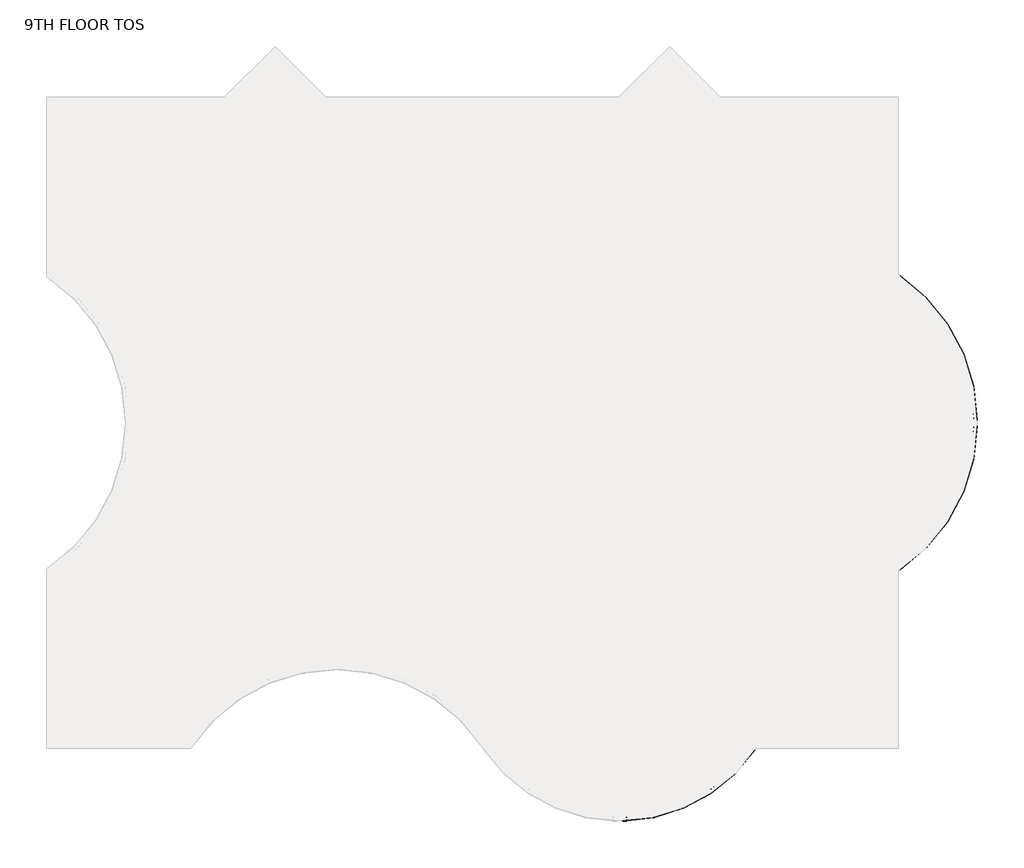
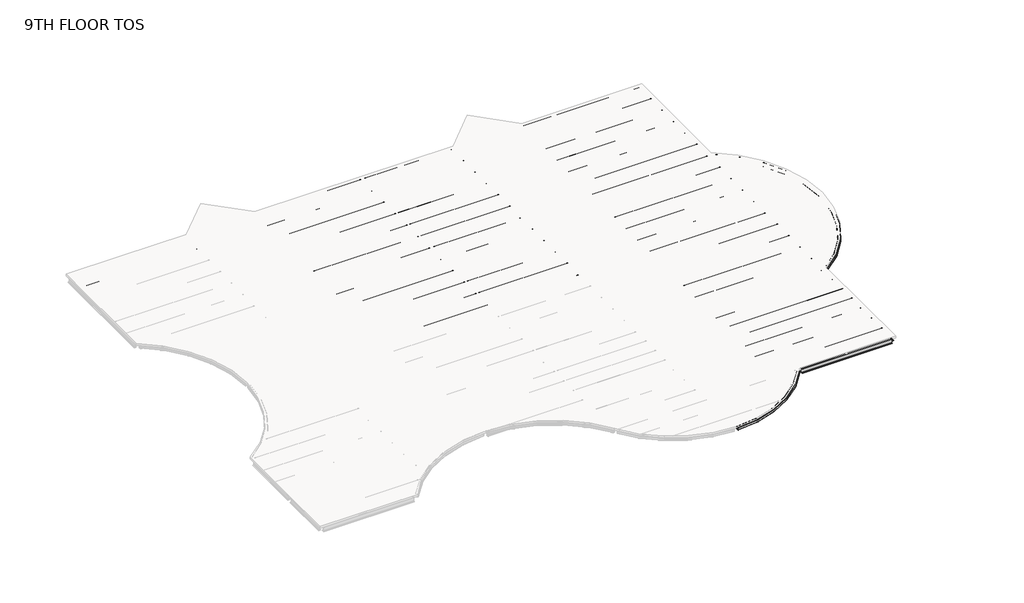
# One storey, part 2 of 2: 110 beams.
"""IFC4 building model written with IfcOpenShell, lengths in millimetres."""

from ifc_helpers import new_model, si_unit, origin, place, context, project, spatial, transform, mapped, element, save
from components import m_hss_square_hss203_2x203_2x9_5_28e91a4e, m_hss_square_hss203_2x203_2x9_5_f31329aa, m_hss_square_hss203_2x203_2x9_5_63507dff, ub_universal_beams_ub254x102x28_7812688d, ub_universal_beams_ub254x102x28_4a38c177, ub_universal_beams_ub305x165x40_c4d0385b, ub_universal_beams_ub305x165x40_19965e16, ub_universal_beams_ub305x165x40_d3abc31d, ub_universal_beams_ub305x165x40_0c73730f, ub_universal_beams_ub305x165x40_2a963f0c, ub_universal_beams_ub305x165x40_9ce7f2ee, ub_universal_beams_ub305x165x40_d184adfd, ub_universal_beams_ub305x165x40_bc7dc938, ub_universal_beams_ub305x165x40_b4233d25, ub_universal_beams_ub356x171x51_c708c058, ub_universal_beams_ub356x171x51_ef72dcdd, ub_universal_beams_ub356x171x51_10b3c54f, ub_universal_beams_ub356x171x51_4c9fd821, ub_universal_beams_ub356x171x51_d1a87c3c, ub_universal_beams_ub356x171x51_fa75724b, ub_universal_beams_ub356x171x51_68db896e, ub_universal_beams_ub356x171x51_c634c4a6, ub_universal_beams_ub356x171x51_995f1560, ub_universal_beams_ub356x171x51_dfc36663, ub_universal_beams_ub356x171x51_11d6b780, ub_universal_beams_ub356x171x51_76b2d20b, ub_universal_beams_ub356x171x51_145ecd4b, ub_universal_beams_ub356x171x51_c7dff8d2, ub_universal_beams_ub356x171x51_8a345439, ub_universal_beams_ub356x171x51_6da510e9, ub_universal_beams_ub356x171x51_e97f8d2e, ub_universal_beams_ub356x171x51_a38b99de, ub_universal_beams_ub356x171x51_d8f4cdde, ub_universal_beams_ub356x171x51_475301e6, ub_universal_beams_ub356x171x51_c03c70fb, ub_universal_beams_ub356x171x51_741bae58

model = new_model("IFC4")

# Units and contexts
model_context = context("Model", 3, world=origin())
ifc_project = project(units=[si_unit("LENGTHUNIT", "METRE", prefix="MILLI")], contexts=[model_context])

# Site, building, storey
site = spatial("IfcSite", under=ifc_project)
building = spatial("IfcBuilding", under=site)
storey = spatial("IfcBuildingStorey", under=building, Name="9TH FLOOR TOS", Elevation=40995.6)

# Beams
placement = place(None, origin())
m_hss_square_hss203_2x203_2x9_5_shape = m_hss_square_hss203_2x203_2x9_5_28e91a4e(model_context)
element("IfcBeam", 1, ObjectType="M_HSS Square : HSS203.2X203.2X9.5", at=placement, inside=storey, context=model_context, shape_type="MappedRepresentation", body=[
    mapped(m_hss_square_hss203_2x203_2x9_5_shape, transform((44027.575, 24539.575, 40894.1), x_axis=(0.8332810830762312, -0.5528495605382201, 0.0), y_axis=(0.5528495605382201, 0.8332810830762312, 0.0), z_axis=(0.0, 0.0, 1.0))),
])
m_hss_square_hss203_2x203_2x9_5_2_shape = m_hss_square_hss203_2x203_2x9_5_f31329aa(model_context)
element("IfcBeam", 2, ObjectType="M_HSS Square : HSS203.2X203.2X9.5", at=placement, inside=storey, context=model_context, shape_type="MappedRepresentation", body=[
    mapped(m_hss_square_hss203_2x203_2x9_5_2_shape, transform((44027.575, 9299.575, 40894.1), x_axis=(0.8332810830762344, 0.5528495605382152, 0.0), y_axis=(-0.5528495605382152, 0.8332810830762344, 0.0), z_axis=(0.0, 0.0, 1.0))),
])
m_hss_square_hss203_2x203_2x9_5_3_shape = m_hss_square_hss203_2x203_2x9_5_63507dff(model_context)
element("IfcBeam", 3, ObjectType="M_HSS Square : HSS203.2X203.2X9.5", at=placement, inside=storey, context=model_context, shape_type="MappedRepresentation", body=[
    mapped(m_hss_square_hss203_2x203_2x9_5_3_shape, transform((36716.575, 155.575, 40894.1), x_axis=(-0.5530174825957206, -0.8331696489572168, 0.0), y_axis=(0.8331696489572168, -0.5530174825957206, 0.0), z_axis=(0.0, 0.0, 1.0))),
])
ub_universal_beams_ub254x102x28_shape = ub_universal_beams_ub254x102x28_7812688d(model_context)
element("IfcBeam", 4, ObjectType="UB-Universal Beams : UB254x102x28", at=placement, inside=storey, context=model_context, shape_type="MappedRepresentation", body=[
    mapped(ub_universal_beams_ub254x102x28_shape, transform((10592.575, 34976.575, 40865.4), x_axis=(0.7071067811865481, 0.7071067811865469, 0.0), y_axis=(-0.7071067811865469, 0.7071067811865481, 0.0), z_axis=(0.0, 0.0, 1.0))),
])
element("IfcBeam", 5, ObjectType="UB-Universal Beams : UB254x102x28", at=placement, inside=storey, context=model_context, shape_type="MappedRepresentation", body=[
    mapped(ub_universal_beams_ub254x102x28_shape, transform((31004.575, 34976.575, 40865.4), x_axis=(0.7071067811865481, 0.7071067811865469, 0.0), y_axis=(-0.7071067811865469, 0.7071067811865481, 0.0), z_axis=(0.0, 0.0, 1.0))),
])
ub_universal_beams_ub254x102x28_2_shape = ub_universal_beams_ub254x102x28_4a38c177(model_context)
element("IfcBeam", 6, ObjectType="UB-Universal Beams : UB254x102x28", at=placement, inside=storey, context=model_context, shape_type="MappedRepresentation", body=[
    mapped(ub_universal_beams_ub254x102x28_2_shape, transform((13178.575, 34976.575, 40865.4), x_axis=(0.707106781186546, -0.707106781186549, 0.0), y_axis=(0.707106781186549, 0.707106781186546, 0.0), z_axis=(0.0, 0.0, 1.0))),
])
element("IfcBeam", 7, ObjectType="UB-Universal Beams : UB254x102x28", at=placement, inside=storey, context=model_context, shape_type="MappedRepresentation", body=[
    mapped(ub_universal_beams_ub254x102x28_2_shape, transform((33590.575, 34976.575, 40865.4), x_axis=(0.7071067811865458, -0.7071067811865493, 0.0), y_axis=(0.7071067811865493, 0.7071067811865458, 0.0), z_axis=(0.0, 0.0, 1.0))),
])
ub_universal_beams_ub305x165x40_shape = ub_universal_beams_ub305x165x40_c4d0385b(model_context)
element("IfcBeam", 8, ObjectType="UB-Universal Beams : UB305x165x40", at=placement, inside=storey, context=model_context, shape_type="MappedRepresentation", body=[
    mapped(ub_universal_beams_ub305x165x40_shape, transform((4727.575, 32159.575, 40843.9), x_axis=(1.0, 0.0, 0.0), y_axis=(0.0, 1.0, 0.0), z_axis=(0.0, 0.0, 1.0))),
])
element("IfcBeam", 9, ObjectType="UB-Universal Beams : UB305x165x40", at=placement, inside=storey, context=model_context, shape_type="MappedRepresentation", body=[
    mapped(ub_universal_beams_ub305x165x40_shape, transform((39455.575, 32159.575, 40843.9), x_axis=(1.0, 0.0, 0.0), y_axis=(0.0, 1.0, 0.0), z_axis=(0.0, 0.0, 1.0))),
])
element("IfcBeam", 10, ObjectType="UB-Universal Beams : UB305x165x40", at=placement, inside=storey, context=model_context, shape_type="MappedRepresentation", body=[
    mapped(ub_universal_beams_ub305x165x40_shape, transform((39455.575, 30635.575, 40843.9), x_axis=(1.0, 0.0, 0.0), y_axis=(0.0, 1.0, 0.0), z_axis=(0.0, 0.0, 1.0))),
])
element("IfcBeam", 11, ObjectType="UB-Universal Beams : UB305x165x40", at=placement, inside=storey, context=model_context, shape_type="MappedRepresentation", body=[
    mapped(ub_universal_beams_ub305x165x40_shape, transform((39455.575, 29111.575, 40843.9), x_axis=(1.0, 0.0, 0.0), y_axis=(0.0, 1.0, 0.0), z_axis=(0.0, 0.0, 1.0))),
])
element("IfcBeam", 12, ObjectType="UB-Universal Beams : UB305x165x40", at=placement, inside=storey, context=model_context, shape_type="MappedRepresentation", body=[
    mapped(ub_universal_beams_ub305x165x40_shape, transform((39455.575, 27587.575, 40843.9), x_axis=(1.0, 0.0, 0.0), y_axis=(0.0, 1.0, 0.0), z_axis=(0.0, 0.0, 1.0))),
])
element("IfcBeam", 13, ObjectType="UB-Universal Beams : UB305x165x40", at=placement, inside=storey, context=model_context, shape_type="MappedRepresentation", body=[
    mapped(ub_universal_beams_ub305x165x40_shape, transform((39455.575, 26063.575, 40843.9), x_axis=(1.0, 0.0, 0.0), y_axis=(0.0, 1.0, 0.0), z_axis=(0.0, 0.0, 1.0))),
])
element("IfcBeam", 14, ObjectType="UB-Universal Beams : UB305x165x40", at=placement, inside=storey, context=model_context, shape_type="MappedRepresentation", body=[
    mapped(ub_universal_beams_ub305x165x40_shape, transform((39455.575, 23015.575, 40843.9), x_axis=(1.0, 0.0, 0.0), y_axis=(0.0, 1.0, 0.0), z_axis=(0.0, 0.0, 1.0))),
])
element("IfcBeam", 15, ObjectType="UB-Universal Beams : UB305x165x40", at=placement, inside=storey, context=model_context, shape_type="MappedRepresentation", body=[
    mapped(ub_universal_beams_ub305x165x40_shape, transform((39455.575, 21491.575, 40843.9), x_axis=(1.0, 0.0, 0.0), y_axis=(0.0, 1.0, 0.0), z_axis=(0.0, 0.0, 1.0))),
])
element("IfcBeam", 16, ObjectType="UB-Universal Beams : UB305x165x40", at=placement, inside=storey, context=model_context, shape_type="MappedRepresentation", body=[
    mapped(ub_universal_beams_ub305x165x40_shape, transform((39455.575, 19967.575, 40843.9), x_axis=(1.0, 0.0, 0.0), y_axis=(0.0, 1.0, 0.0), z_axis=(0.0, 0.0, 1.0))),
])
element("IfcBeam", 17, ObjectType="UB-Universal Beams : UB305x165x40", at=placement, inside=storey, context=model_context, shape_type="MappedRepresentation", body=[
    mapped(ub_universal_beams_ub305x165x40_shape, transform((39455.575, 18443.575, 40843.9), x_axis=(1.0, 0.0, 0.0), y_axis=(0.0, 1.0, 0.0), z_axis=(0.0, 0.0, 1.0))),
])
element("IfcBeam", 18, ObjectType="UB-Universal Beams : UB305x165x40", at=placement, inside=storey, context=model_context, shape_type="MappedRepresentation", body=[
    mapped(ub_universal_beams_ub305x165x40_shape, transform((39455.575, 15395.575, 40843.9), x_axis=(1.0, 0.0, 0.0), y_axis=(0.0, 1.0, 0.0), z_axis=(0.0, 0.0, 1.0))),
])
element("IfcBeam", 19, ObjectType="UB-Universal Beams : UB305x165x40", at=placement, inside=storey, context=model_context, shape_type="MappedRepresentation", body=[
    mapped(ub_universal_beams_ub305x165x40_shape, transform((39455.575, 13871.575, 40843.9), x_axis=(1.0, 0.0, 0.0), y_axis=(0.0, 1.0, 0.0), z_axis=(0.0, 0.0, 1.0))),
])
element("IfcBeam", 20, ObjectType="UB-Universal Beams : UB305x165x40", at=placement, inside=storey, context=model_context, shape_type="MappedRepresentation", body=[
    mapped(ub_universal_beams_ub305x165x40_shape, transform((39455.575, 12347.575, 40843.9), x_axis=(1.0, 0.0, 0.0), y_axis=(0.0, 1.0, 0.0), z_axis=(0.0, 0.0, 1.0))),
])
element("IfcBeam", 21, ObjectType="UB-Universal Beams : UB305x165x40", at=placement, inside=storey, context=model_context, shape_type="MappedRepresentation", body=[
    mapped(ub_universal_beams_ub305x165x40_shape, transform((39455.575, 10823.575, 40843.9), x_axis=(1.0, 0.0, 0.0), y_axis=(0.0, 1.0, 0.0), z_axis=(0.0, 0.0, 1.0))),
])
element("IfcBeam", 22, ObjectType="UB-Universal Beams : UB305x165x40", at=placement, inside=storey, context=model_context, shape_type="MappedRepresentation", body=[
    mapped(ub_universal_beams_ub305x165x40_shape, transform((39455.575, 5508.325, 40843.9), x_axis=(-1.0, 0.0, 0.0), y_axis=(0.0, -1.0, 0.0), z_axis=(0.0, 0.0, 1.0))),
])
element("IfcBeam", 23, ObjectType="UB-Universal Beams : UB305x165x40", at=placement, inside=storey, context=model_context, shape_type="MappedRepresentation", body=[
    mapped(ub_universal_beams_ub305x165x40_shape, transform((39455.575, 6772.075, 40843.9), x_axis=(-1.0, 0.0, 0.0), y_axis=(0.0, -1.0, 0.0), z_axis=(0.0, 0.0, 1.0))),
])
element("IfcBeam", 24, ObjectType="UB-Universal Beams : UB305x165x40", at=placement, inside=storey, context=model_context, shape_type="MappedRepresentation", body=[
    mapped(ub_universal_beams_ub305x165x40_shape, transform((39455.575, 8035.825, 40843.9), x_axis=(-1.0, 0.0, 0.0), y_axis=(0.0, -1.0, 0.0), z_axis=(0.0, 0.0, 1.0))),
])
element("IfcBeam", 25, ObjectType="UB-Universal Beams : UB305x165x40", at=placement, inside=storey, context=model_context, shape_type="MappedRepresentation", body=[
    mapped(ub_universal_beams_ub305x165x40_shape, transform((39455.575, 1518.575, 40843.9), x_axis=(-1.0, 0.0, 0.0), y_axis=(0.0, -1.0, 0.0), z_axis=(0.0, 0.0, 1.0))),
])
element("IfcBeam", 26, ObjectType="UB-Universal Beams : UB305x165x40", at=placement, inside=storey, context=model_context, shape_type="MappedRepresentation", body=[
    mapped(ub_universal_beams_ub305x165x40_shape, transform((39455.575, 2881.575, 40843.9), x_axis=(-1.0, 0.0, 0.0), y_axis=(0.0, -1.0, 0.0), z_axis=(0.0, 0.0, 1.0))),
])
ub_universal_beams_ub305x165x40_2_shape = ub_universal_beams_ub305x165x40_19965e16(model_context)
element("IfcBeam", 27, ObjectType="UB-Universal Beams : UB305x165x40", at=placement, inside=storey, context=model_context, shape_type="MappedRepresentation", body=[
    mapped(ub_universal_beams_ub305x165x40_2_shape, transform((11885.575, 34803.325, 40843.9), x_axis=(1.0, 0.0, 0.0), y_axis=(0.0, 1.0, 0.0), z_axis=(0.0, 0.0, 1.0))),
])
element("IfcBeam", 28, ObjectType="UB-Universal Beams : UB305x165x40", at=placement, inside=storey, context=model_context, shape_type="MappedRepresentation", body=[
    mapped(ub_universal_beams_ub305x165x40_2_shape, transform((32297.575, 34803.325, 40843.9), x_axis=(1.0, 0.0, 0.0), y_axis=(0.0, 1.0, 0.0), z_axis=(0.0, 0.0, 1.0))),
])
ub_universal_beams_ub305x165x40_3_shape = ub_universal_beams_ub305x165x40_d3abc31d(model_context)
element("IfcBeam", 29, ObjectType="UB-Universal Beams : UB305x165x40", at=placement, inside=storey, context=model_context, shape_type="MappedRepresentation", body=[
    mapped(ub_universal_beams_ub305x165x40_3_shape, transform((11885.575, 33337.075, 40843.9), x_axis=(1.0, 0.0, 0.0), y_axis=(0.0, 1.0, 0.0), z_axis=(0.0, 0.0, 1.0))),
])
element("IfcBeam", 30, ObjectType="UB-Universal Beams : UB305x165x40", at=placement, inside=storey, context=model_context, shape_type="MappedRepresentation", body=[
    mapped(ub_universal_beams_ub305x165x40_3_shape, transform((11885.575, 31870.825, 40843.9), x_axis=(1.0, 0.0, 0.0), y_axis=(0.0, 1.0, 0.0), z_axis=(0.0, 0.0, 1.0))),
])
element("IfcBeam", 31, ObjectType="UB-Universal Beams : UB305x165x40", at=placement, inside=storey, context=model_context, shape_type="MappedRepresentation", body=[
    mapped(ub_universal_beams_ub305x165x40_3_shape, transform((11885.575, 30404.575, 40843.9), x_axis=(1.0, 0.0, 0.0), y_axis=(0.0, 1.0, 0.0), z_axis=(0.0, 0.0, 1.0))),
])
element("IfcBeam", 32, ObjectType="UB-Universal Beams : UB305x165x40", at=placement, inside=storey, context=model_context, shape_type="MappedRepresentation", body=[
    mapped(ub_universal_beams_ub305x165x40_3_shape, transform((32297.575, 33337.075, 40843.9), x_axis=(1.0, 0.0, 0.0), y_axis=(0.0, 1.0, 0.0), z_axis=(0.0, 0.0, 1.0))),
])
element("IfcBeam", 33, ObjectType="UB-Universal Beams : UB305x165x40", at=placement, inside=storey, context=model_context, shape_type="MappedRepresentation", body=[
    mapped(ub_universal_beams_ub305x165x40_3_shape, transform((32297.575, 31870.825, 40843.9), x_axis=(1.0, 0.0, 0.0), y_axis=(0.0, 1.0, 0.0), z_axis=(0.0, 0.0, 1.0))),
])
element("IfcBeam", 34, ObjectType="UB-Universal Beams : UB305x165x40", at=placement, inside=storey, context=model_context, shape_type="MappedRepresentation", body=[
    mapped(ub_universal_beams_ub305x165x40_3_shape, transform((32297.575, 30404.575, 40843.9), x_axis=(1.0, 0.0, 0.0), y_axis=(0.0, 1.0, 0.0), z_axis=(0.0, 0.0, 1.0))),
])
element("IfcBeam", 35, ObjectType="UB-Universal Beams : UB305x165x40", at=placement, inside=storey, context=model_context, shape_type="MappedRepresentation", body=[
    mapped(ub_universal_beams_ub305x165x40_3_shape, transform((32297.575, 28938.325, 40843.9), x_axis=(1.0, 0.0, 0.0), y_axis=(0.0, 1.0, 0.0), z_axis=(0.0, 0.0, 1.0))),
])
element("IfcBeam", 36, ObjectType="UB-Universal Beams : UB305x165x40", at=placement, inside=storey, context=model_context, shape_type="MappedRepresentation", body=[
    mapped(ub_universal_beams_ub305x165x40_3_shape, transform((32297.575, 27472.075, 40843.9), x_axis=(1.0, 0.0, 0.0), y_axis=(0.0, 1.0, 0.0), z_axis=(0.0, 0.0, 1.0))),
])
element("IfcBeam", 37, ObjectType="UB-Universal Beams : UB305x165x40", at=placement, inside=storey, context=model_context, shape_type="MappedRepresentation", body=[
    mapped(ub_universal_beams_ub305x165x40_3_shape, transform((32297.575, 26005.825, 40843.9), x_axis=(1.0, 0.0, 0.0), y_axis=(0.0, 1.0, 0.0), z_axis=(0.0, 0.0, 1.0))),
])
element("IfcBeam", 38, ObjectType="UB-Universal Beams : UB305x165x40", at=placement, inside=storey, context=model_context, shape_type="MappedRepresentation", body=[
    mapped(ub_universal_beams_ub305x165x40_3_shape, transform((32297.575, 1518.575, 40843.9), x_axis=(-1.0, 0.0, 0.0), y_axis=(0.0, -1.0, 0.0), z_axis=(0.0, 0.0, 1.0))),
])
element("IfcBeam", 39, ObjectType="UB-Universal Beams : UB305x165x40", at=placement, inside=storey, context=model_context, shape_type="MappedRepresentation", body=[
    mapped(ub_universal_beams_ub305x165x40_3_shape, transform((32297.575, 2881.575, 40843.9), x_axis=(-1.0, 0.0, 0.0), y_axis=(0.0, -1.0, 0.0), z_axis=(0.0, 0.0, 1.0))),
])
element("IfcBeam", 40, ObjectType="UB-Universal Beams : UB305x165x40", at=placement, inside=storey, context=model_context, shape_type="MappedRepresentation", body=[
    mapped(ub_universal_beams_ub305x165x40_3_shape, transform((32297.575, 5508.325, 40843.9), x_axis=(-1.0, 0.0, 0.0), y_axis=(0.0, -1.0, 0.0), z_axis=(0.0, 0.0, 1.0))),
])
element("IfcBeam", 41, ObjectType="UB-Universal Beams : UB305x165x40", at=placement, inside=storey, context=model_context, shape_type="MappedRepresentation", body=[
    mapped(ub_universal_beams_ub305x165x40_3_shape, transform((32297.575, 6772.075, 40843.9), x_axis=(-1.0, 0.0, 0.0), y_axis=(0.0, -1.0, 0.0), z_axis=(0.0, 0.0, 1.0))),
])
element("IfcBeam", 42, ObjectType="UB-Universal Beams : UB305x165x40", at=placement, inside=storey, context=model_context, shape_type="MappedRepresentation", body=[
    mapped(ub_universal_beams_ub305x165x40_3_shape, transform((32297.575, 8035.825, 40843.9), x_axis=(-1.0, 0.0, 0.0), y_axis=(0.0, -1.0, 0.0), z_axis=(0.0, 0.0, 1.0))),
])
element("IfcBeam", 43, ObjectType="UB-Universal Beams : UB305x165x40", at=placement, inside=storey, context=model_context, shape_type="MappedRepresentation", body=[
    mapped(ub_universal_beams_ub305x165x40_3_shape, transform((32297.575, 15395.575, 40843.9), x_axis=(1.0, 0.0, 0.0), y_axis=(0.0, 1.0, 0.0), z_axis=(0.0, 0.0, 1.0))),
])
element("IfcBeam", 44, ObjectType="UB-Universal Beams : UB305x165x40", at=placement, inside=storey, context=model_context, shape_type="MappedRepresentation", body=[
    mapped(ub_universal_beams_ub305x165x40_3_shape, transform((32297.575, 13871.575, 40843.9), x_axis=(1.0, 0.0, 0.0), y_axis=(0.0, 1.0, 0.0), z_axis=(0.0, 0.0, 1.0))),
])
element("IfcBeam", 45, ObjectType="UB-Universal Beams : UB305x165x40", at=placement, inside=storey, context=model_context, shape_type="MappedRepresentation", body=[
    mapped(ub_universal_beams_ub305x165x40_3_shape, transform((32297.575, 12347.575, 40843.9), x_axis=(1.0, 0.0, 0.0), y_axis=(0.0, 1.0, 0.0), z_axis=(0.0, 0.0, 1.0))),
])
element("IfcBeam", 46, ObjectType="UB-Universal Beams : UB305x165x40", at=placement, inside=storey, context=model_context, shape_type="MappedRepresentation", body=[
    mapped(ub_universal_beams_ub305x165x40_3_shape, transform((32297.575, 10823.575, 40843.9), x_axis=(1.0, 0.0, 0.0), y_axis=(0.0, 1.0, 0.0), z_axis=(0.0, 0.0, 1.0))),
])
element("IfcBeam", 47, ObjectType="UB-Universal Beams : UB305x165x40", at=placement, inside=storey, context=model_context, shape_type="MappedRepresentation", body=[
    mapped(ub_universal_beams_ub305x165x40_3_shape, transform((32297.575, 23015.575, 40843.9), x_axis=(1.0, 0.0, 0.0), y_axis=(0.0, 1.0, 0.0), z_axis=(0.0, 0.0, 1.0))),
])
element("IfcBeam", 48, ObjectType="UB-Universal Beams : UB305x165x40", at=placement, inside=storey, context=model_context, shape_type="MappedRepresentation", body=[
    mapped(ub_universal_beams_ub305x165x40_3_shape, transform((32297.575, 21491.575, 40843.9), x_axis=(1.0, 0.0, 0.0), y_axis=(0.0, 1.0, 0.0), z_axis=(0.0, 0.0, 1.0))),
])
element("IfcBeam", 49, ObjectType="UB-Universal Beams : UB305x165x40", at=placement, inside=storey, context=model_context, shape_type="MappedRepresentation", body=[
    mapped(ub_universal_beams_ub305x165x40_3_shape, transform((32297.575, 19967.575, 40843.9), x_axis=(1.0, 0.0, 0.0), y_axis=(0.0, 1.0, 0.0), z_axis=(0.0, 0.0, 1.0))),
])
element("IfcBeam", 50, ObjectType="UB-Universal Beams : UB305x165x40", at=placement, inside=storey, context=model_context, shape_type="MappedRepresentation", body=[
    mapped(ub_universal_beams_ub305x165x40_3_shape, transform((32297.575, 18443.575, 40843.9), x_axis=(1.0, 0.0, 0.0), y_axis=(0.0, 1.0, 0.0), z_axis=(0.0, 0.0, 1.0))),
])
ub_universal_beams_ub305x165x40_4_shape = ub_universal_beams_ub305x165x40_0c73730f(model_context)
element("IfcBeam", 51, ObjectType="UB-Universal Beams : UB305x165x40", at=placement, inside=storey, context=model_context, shape_type="MappedRepresentation", body=[
    mapped(ub_universal_beams_ub305x165x40_4_shape, transform((18591.075, 32159.575, 40843.9), x_axis=(1.0, 0.0, 0.0), y_axis=(0.0, 1.0, 0.0), z_axis=(0.0, 0.0, 1.0))),
])
element("IfcBeam", 52, ObjectType="UB-Universal Beams : UB305x165x40", at=placement, inside=storey, context=model_context, shape_type="MappedRepresentation", body=[
    mapped(ub_universal_beams_ub305x165x40_4_shape, transform((18591.075, 30635.575, 40843.9), x_axis=(1.0, 0.0, 0.0), y_axis=(0.0, 1.0, 0.0), z_axis=(0.0, 0.0, 1.0))),
])
element("IfcBeam", 53, ObjectType="UB-Universal Beams : UB305x165x40", at=placement, inside=storey, context=model_context, shape_type="MappedRepresentation", body=[
    mapped(ub_universal_beams_ub305x165x40_4_shape, transform((18591.075, 29111.575, 40843.9), x_axis=(1.0, 0.0, 0.0), y_axis=(0.0, 1.0, 0.0), z_axis=(0.0, 0.0, 1.0))),
])
element("IfcBeam", 54, ObjectType="UB-Universal Beams : UB305x165x40", at=placement, inside=storey, context=model_context, shape_type="MappedRepresentation", body=[
    mapped(ub_universal_beams_ub305x165x40_4_shape, transform((18591.075, 27587.575, 40843.9), x_axis=(1.0, 0.0, 0.0), y_axis=(0.0, 1.0, 0.0), z_axis=(0.0, 0.0, 1.0))),
])
element("IfcBeam", 55, ObjectType="UB-Universal Beams : UB305x165x40", at=placement, inside=storey, context=model_context, shape_type="MappedRepresentation", body=[
    mapped(ub_universal_beams_ub305x165x40_4_shape, transform((18591.075, 26063.575, 40843.9), x_axis=(1.0, 0.0, 0.0), y_axis=(0.0, 1.0, 0.0), z_axis=(0.0, 0.0, 1.0))),
])
element("IfcBeam", 56, ObjectType="UB-Universal Beams : UB305x165x40", at=placement, inside=storey, context=model_context, shape_type="MappedRepresentation", body=[
    mapped(ub_universal_beams_ub305x165x40_4_shape, transform((18591.075, 23015.575, 40843.9), x_axis=(1.0, 0.0, 0.0), y_axis=(0.0, 1.0, 0.0), z_axis=(0.0, 0.0, 1.0))),
])
element("IfcBeam", 57, ObjectType="UB-Universal Beams : UB305x165x40", at=placement, inside=storey, context=model_context, shape_type="MappedRepresentation", body=[
    mapped(ub_universal_beams_ub305x165x40_4_shape, transform((18591.075, 21491.575, 40843.9), x_axis=(1.0, 0.0, 0.0), y_axis=(0.0, 1.0, 0.0), z_axis=(0.0, 0.0, 1.0))),
])
element("IfcBeam", 58, ObjectType="UB-Universal Beams : UB305x165x40", at=placement, inside=storey, context=model_context, shape_type="MappedRepresentation", body=[
    mapped(ub_universal_beams_ub305x165x40_4_shape, transform((18591.075, 19967.575, 40843.9), x_axis=(1.0, 0.0, 0.0), y_axis=(0.0, 1.0, 0.0), z_axis=(0.0, 0.0, 1.0))),
])
element("IfcBeam", 59, ObjectType="UB-Universal Beams : UB305x165x40", at=placement, inside=storey, context=model_context, shape_type="MappedRepresentation", body=[
    mapped(ub_universal_beams_ub305x165x40_4_shape, transform((18591.075, 18443.575, 40843.9), x_axis=(1.0, 0.0, 0.0), y_axis=(0.0, 1.0, 0.0), z_axis=(0.0, 0.0, 1.0))),
])
ub_universal_beams_ub305x165x40_5_shape = ub_universal_beams_ub305x165x40_2a963f0c(model_context)
element("IfcBeam", 60, ObjectType="UB-Universal Beams : UB305x165x40", at=placement, inside=storey, context=model_context, shape_type="MappedRepresentation", body=[
    mapped(ub_universal_beams_ub305x165x40_5_shape, transform((26211.075, 32159.575, 40843.9), x_axis=(1.0, 0.0, 0.0), y_axis=(0.0, 1.0, 0.0), z_axis=(0.0, 0.0, 1.0))),
])
element("IfcBeam", 61, ObjectType="UB-Universal Beams : UB305x165x40", at=placement, inside=storey, context=model_context, shape_type="MappedRepresentation", body=[
    mapped(ub_universal_beams_ub305x165x40_5_shape, transform((26211.075, 30635.575, 40843.9), x_axis=(1.0, 0.0, 0.0), y_axis=(0.0, 1.0, 0.0), z_axis=(0.0, 0.0, 1.0))),
])
element("IfcBeam", 62, ObjectType="UB-Universal Beams : UB305x165x40", at=placement, inside=storey, context=model_context, shape_type="MappedRepresentation", body=[
    mapped(ub_universal_beams_ub305x165x40_5_shape, transform((26211.075, 29111.575, 40843.9), x_axis=(1.0, 0.0, 0.0), y_axis=(0.0, 1.0, 0.0), z_axis=(0.0, 0.0, 1.0))),
])
element("IfcBeam", 63, ObjectType="UB-Universal Beams : UB305x165x40", at=placement, inside=storey, context=model_context, shape_type="MappedRepresentation", body=[
    mapped(ub_universal_beams_ub305x165x40_5_shape, transform((26211.075, 27587.575, 40843.9), x_axis=(1.0, 0.0, 0.0), y_axis=(0.0, 1.0, 0.0), z_axis=(0.0, 0.0, 1.0))),
])
element("IfcBeam", 64, ObjectType="UB-Universal Beams : UB305x165x40", at=placement, inside=storey, context=model_context, shape_type="MappedRepresentation", body=[
    mapped(ub_universal_beams_ub305x165x40_5_shape, transform((26211.075, 26063.575, 40843.9), x_axis=(1.0, 0.0, 0.0), y_axis=(0.0, 1.0, 0.0), z_axis=(0.0, 0.0, 1.0))),
])
element("IfcBeam", 65, ObjectType="UB-Universal Beams : UB305x165x40", at=placement, inside=storey, context=model_context, shape_type="MappedRepresentation", body=[
    mapped(ub_universal_beams_ub305x165x40_5_shape, transform((26211.075, 23015.575, 40843.9), x_axis=(1.0, 0.0, 0.0), y_axis=(0.0, 1.0, 0.0), z_axis=(0.0, 0.0, 1.0))),
])
element("IfcBeam", 66, ObjectType="UB-Universal Beams : UB305x165x40", at=placement, inside=storey, context=model_context, shape_type="MappedRepresentation", body=[
    mapped(ub_universal_beams_ub305x165x40_5_shape, transform((26211.075, 21491.575, 40843.9), x_axis=(1.0, 0.0, 0.0), y_axis=(0.0, 1.0, 0.0), z_axis=(0.0, 0.0, 1.0))),
])
element("IfcBeam", 67, ObjectType="UB-Universal Beams : UB305x165x40", at=placement, inside=storey, context=model_context, shape_type="MappedRepresentation", body=[
    mapped(ub_universal_beams_ub305x165x40_5_shape, transform((26211.075, 19967.575, 40843.9), x_axis=(1.0, 0.0, 0.0), y_axis=(0.0, 1.0, 0.0), z_axis=(0.0, 0.0, 1.0))),
])
element("IfcBeam", 68, ObjectType="UB-Universal Beams : UB305x165x40", at=placement, inside=storey, context=model_context, shape_type="MappedRepresentation", body=[
    mapped(ub_universal_beams_ub305x165x40_5_shape, transform((26211.075, 18443.575, 40843.9), x_axis=(1.0, 0.0, 0.0), y_axis=(0.0, 1.0, 0.0), z_axis=(0.0, 0.0, 1.0))),
])
ub_universal_beams_ub305x165x40_6_shape = ub_universal_beams_ub305x165x40_9ce7f2ee(model_context)
element("IfcBeam", 69, ObjectType="UB-Universal Beams : UB305x165x40", at=placement, inside=storey, context=model_context, shape_type="MappedRepresentation", body=[
    mapped(ub_universal_beams_ub305x165x40_6_shape, transform((44907.9405309, 23015.575, 40843.9), x_axis=(1.0, 0.0, 0.0), y_axis=(0.0, 1.0, 0.0), z_axis=(0.0, 0.0, 1.0))),
])
element("IfcBeam", 70, ObjectType="UB-Universal Beams : UB305x165x40", at=placement, inside=storey, context=model_context, shape_type="MappedRepresentation", body=[
    mapped(ub_universal_beams_ub305x165x40_6_shape, transform((44907.9405309, 10823.575, 40843.9), x_axis=(1.0, 0.0, 0.0), y_axis=(0.0, 1.0, 0.0), z_axis=(0.0, 0.0, 1.0))),
])
ub_universal_beams_ub305x165x40_7_shape = ub_universal_beams_ub305x165x40_d184adfd(model_context)
element("IfcBeam", 71, ObjectType="UB-Universal Beams : UB305x165x40", at=placement, inside=storey, context=model_context, shape_type="MappedRepresentation", body=[
    mapped(ub_universal_beams_ub305x165x40_7_shape, transform((45459.5874928, 21491.575, 40843.9), x_axis=(1.0, 0.0, 0.0), y_axis=(0.0, 1.0, 0.0), z_axis=(0.0, 0.0, 1.0))),
])
element("IfcBeam", 72, ObjectType="UB-Universal Beams : UB305x165x40", at=placement, inside=storey, context=model_context, shape_type="MappedRepresentation", body=[
    mapped(ub_universal_beams_ub305x165x40_7_shape, transform((45459.5874928, 12347.575, 40843.9), x_axis=(1.0, 0.0, 0.0), y_axis=(0.0, 1.0, 0.0), z_axis=(0.0, 0.0, 1.0))),
])
ub_universal_beams_ub305x165x40_8_shape = ub_universal_beams_ub305x165x40_bc7dc938(model_context)
element("IfcBeam", 73, ObjectType="UB-Universal Beams : UB305x165x40", at=placement, inside=storey, context=model_context, shape_type="MappedRepresentation", body=[
    mapped(ub_universal_beams_ub305x165x40_8_shape, transform((45810.6153272, 19967.575, 40843.9), x_axis=(1.0, 0.0, 0.0), y_axis=(0.0, 1.0, 0.0), z_axis=(0.0, 0.0, 1.0))),
])
element("IfcBeam", 74, ObjectType="UB-Universal Beams : UB305x165x40", at=placement, inside=storey, context=model_context, shape_type="MappedRepresentation", body=[
    mapped(ub_universal_beams_ub305x165x40_8_shape, transform((45810.6153272, 13871.575, 40843.9), x_axis=(1.0, 0.0, 0.0), y_axis=(0.0, 1.0, 0.0), z_axis=(0.0, 0.0, 1.0))),
])
ub_universal_beams_ub305x165x40_9_shape = ub_universal_beams_ub305x165x40_b4233d25(model_context)
element("IfcBeam", 75, ObjectType="UB-Universal Beams : UB305x165x40", at=placement, inside=storey, context=model_context, shape_type="MappedRepresentation", body=[
    mapped(ub_universal_beams_ub305x165x40_9_shape, transform((46008.1318611, 18443.575, 40843.9), x_axis=(1.0, 0.0, 0.0), y_axis=(0.0, 1.0, 0.0), z_axis=(0.0, 0.0, 1.0))),
])
element("IfcBeam", 76, ObjectType="UB-Universal Beams : UB305x165x40", at=placement, inside=storey, context=model_context, shape_type="MappedRepresentation", body=[
    mapped(ub_universal_beams_ub305x165x40_9_shape, transform((46008.1318611, 15395.575, 40843.9), x_axis=(1.0, 0.0, 0.0), y_axis=(0.0, 1.0, 0.0), z_axis=(0.0, 0.0, 1.0))),
])
ub_universal_beams_ub356x171x51_shape = ub_universal_beams_ub356x171x51_c708c058(model_context)
element("IfcBeam", 77, ObjectType="UB-Universal Beams : UB356x171x51", at=placement, inside=storey, context=model_context, shape_type="MappedRepresentation", body=[
    mapped(ub_universal_beams_ub356x171x51_shape, transform((2200.075, 33683.575, 40818.1), x_axis=(1.0, 0.0, 0.0), y_axis=(0.0, 1.0, 0.0), z_axis=(0.0, 0.0, 1.0))),
])
ub_universal_beams_ub356x171x51_2_shape = ub_universal_beams_ub356x171x51_ef72dcdd(model_context)
element("IfcBeam", 78, ObjectType="UB-Universal Beams : UB356x171x51", at=placement, inside=storey, context=model_context, shape_type="MappedRepresentation", body=[
    mapped(ub_universal_beams_ub356x171x51_2_shape, transform((6772.075, 33683.575, 40818.1), x_axis=(1.0, 0.0, 0.0), y_axis=(0.0, 1.0, 0.0), z_axis=(0.0, 0.0, 1.0))),
])
element("IfcBeam", 79, ObjectType="UB-Universal Beams : UB356x171x51", at=placement, inside=storey, context=model_context, shape_type="MappedRepresentation", body=[
    mapped(ub_universal_beams_ub356x171x51_2_shape, transform((34883.575, 6772.075, 40818.1), x_axis=(0.0, -1.0, 0.0), y_axis=(1.0, 0.0, 0.0), z_axis=(0.0, 0.0, 1.0))),
])
ub_universal_beams_ub356x171x51_3_shape = ub_universal_beams_ub356x171x51_10b3c54f(model_context)
element("IfcBeam", 80, ObjectType="UB-Universal Beams : UB356x171x51", at=placement, inside=storey, context=model_context, shape_type="MappedRepresentation", body=[
    mapped(ub_universal_beams_ub356x171x51_3_shape, transform((18591.075, 33683.575, 40818.1), x_axis=(1.0, 0.0, 0.0), y_axis=(0.0, 1.0, 0.0), z_axis=(0.0, 0.0, 1.0))),
])
ub_universal_beams_ub356x171x51_4_shape = ub_universal_beams_ub356x171x51_4c9fd821(model_context)
element("IfcBeam", 81, ObjectType="UB-Universal Beams : UB356x171x51", at=placement, inside=storey, context=model_context, shape_type="MappedRepresentation", body=[
    mapped(ub_universal_beams_ub356x171x51_4_shape, transform((26211.075, 33683.575, 40818.1), x_axis=(1.0, 0.0, 0.0), y_axis=(0.0, 1.0, 0.0), z_axis=(0.0, 0.0, 1.0))),
])
ub_universal_beams_ub356x171x51_5_shape = ub_universal_beams_ub356x171x51_d1a87c3c(model_context)
element("IfcBeam", 82, ObjectType="UB-Universal Beams : UB356x171x51", at=placement, inside=storey, context=model_context, shape_type="MappedRepresentation", body=[
    mapped(ub_universal_beams_ub356x171x51_5_shape, transform((39455.575, 33683.575, 40818.1), x_axis=(1.0, 0.0, 0.0), y_axis=(0.0, 1.0, 0.0), z_axis=(0.0, 0.0, 1.0))),
])
ub_universal_beams_ub356x171x51_6_shape = ub_universal_beams_ub356x171x51_fa75724b(model_context)
element("IfcBeam", 83, ObjectType="UB-Universal Beams : UB356x171x51", at=placement, inside=storey, context=model_context, shape_type="MappedRepresentation", body=[
    mapped(ub_universal_beams_ub356x171x51_6_shape, transform((44027.575, 29111.575, 40818.1), x_axis=(0.0, -1.0, 0.0), y_axis=(1.0, 0.0, 0.0), z_axis=(0.0, 0.0, 1.0))),
])
ub_universal_beams_ub356x171x51_7_shape = ub_universal_beams_ub356x171x51_68db896e(model_context)
element("IfcBeam", 84, ObjectType="UB-Universal Beams : UB356x171x51", at=placement, inside=storey, context=model_context, shape_type="MappedRepresentation", body=[
    mapped(ub_universal_beams_ub356x171x51_7_shape, transform((44027.575, 6772.075, 40818.1), x_axis=(0.0, -1.0, 0.0), y_axis=(1.0, 0.0, 0.0), z_axis=(0.0, 0.0, 1.0))),
])
ub_universal_beams_ub356x171x51_8_shape = ub_universal_beams_ub356x171x51_c634c4a6(model_context)
element("IfcBeam", 85, ObjectType="UB-Universal Beams : UB356x171x51", at=placement, inside=storey, context=model_context, shape_type="MappedRepresentation", body=[
    mapped(ub_universal_beams_ub356x171x51_8_shape, transform((44027.575, 2200.075, 40818.1), x_axis=(0.0, -1.0, 0.0), y_axis=(1.0, 0.0, 0.0), z_axis=(0.0, 0.0, 1.0))),
])
ub_universal_beams_ub356x171x51_9_shape = ub_universal_beams_ub356x171x51_995f1560(model_context)
element("IfcBeam", 86, ObjectType="UB-Universal Beams : UB356x171x51", at=placement, inside=storey, context=model_context, shape_type="MappedRepresentation", body=[
    mapped(ub_universal_beams_ub356x171x51_9_shape, transform((40372.075, 155.575, 40818.1), x_axis=(-1.0, 0.0, 0.0), y_axis=(0.0, -1.0, 0.0), z_axis=(0.0, 0.0, 1.0))),
])
ub_universal_beams_ub356x171x51_10_shape = ub_universal_beams_ub356x171x51_dfc36663(model_context)
element("IfcBeam", 87, ObjectType="UB-Universal Beams : UB356x171x51", at=placement, inside=storey, context=model_context, shape_type="MappedRepresentation", body=[
    mapped(ub_universal_beams_ub356x171x51_10_shape, transform((46072.075, 16919.575, 40818.1), x_axis=(1.0, 0.0, 0.0), y_axis=(0.0, 1.0, 0.0), z_axis=(0.0, 0.0, 1.0))),
])
ub_universal_beams_ub356x171x51_11_shape = ub_universal_beams_ub356x171x51_11d6b780(model_context)
element("IfcBeam", 88, ObjectType="UB-Universal Beams : UB356x171x51", at=placement, inside=storey, context=model_context, shape_type="MappedRepresentation", body=[
    mapped(ub_universal_beams_ub356x171x51_11_shape, transform((32297.575, 24539.575, 40818.1), x_axis=(1.0, 0.0, 0.0), y_axis=(0.0, 1.0, 0.0), z_axis=(0.0, 0.0, 1.0))),
])
element("IfcBeam", 89, ObjectType="UB-Universal Beams : UB356x171x51", at=placement, inside=storey, context=model_context, shape_type="MappedRepresentation", body=[
    mapped(ub_universal_beams_ub356x171x51_11_shape, transform((32297.575, 9299.575, 40818.1), x_axis=(-1.0, 0.0, 0.0), y_axis=(0.0, -1.0, 0.0), z_axis=(0.0, 0.0, 1.0))),
])
element("IfcBeam", 90, ObjectType="UB-Universal Beams : UB356x171x51", at=placement, inside=storey, context=model_context, shape_type="MappedRepresentation", body=[
    mapped(ub_universal_beams_ub356x171x51_11_shape, transform((32297.575, 16919.575, 40818.1), x_axis=(1.0, 0.0, 0.0), y_axis=(0.0, 1.0, 0.0), z_axis=(0.0, 0.0, 1.0))),
])
element("IfcBeam", 91, ObjectType="UB-Universal Beams : UB356x171x51", at=placement, inside=storey, context=model_context, shape_type="MappedRepresentation", body=[
    mapped(ub_universal_beams_ub356x171x51_11_shape, transform((32297.575, 4244.575, 40818.1), x_axis=(-1.0, 0.0, 0.0), y_axis=(0.0, -1.0, 0.0), z_axis=(0.0, 0.0, 1.0))),
])
ub_universal_beams_ub356x171x51_12_shape = ub_universal_beams_ub356x171x51_76b2d20b(model_context)
element("IfcBeam", 92, ObjectType="UB-Universal Beams : UB356x171x51", at=placement, inside=storey, context=model_context, shape_type="MappedRepresentation", body=[
    mapped(ub_universal_beams_ub356x171x51_12_shape, transform((18591.075, 24539.575, 40818.1), x_axis=(1.0, 0.0, 0.0), y_axis=(0.0, 1.0, 0.0), z_axis=(0.0, 0.0, 1.0))),
])
element("IfcBeam", 93, ObjectType="UB-Universal Beams : UB356x171x51", at=placement, inside=storey, context=model_context, shape_type="MappedRepresentation", body=[
    mapped(ub_universal_beams_ub356x171x51_12_shape, transform((18591.075, 16919.575, 40818.1), x_axis=(1.0, 0.0, 0.0), y_axis=(0.0, 1.0, 0.0), z_axis=(0.0, 0.0, 1.0))),
])
ub_universal_beams_ub356x171x51_13_shape = ub_universal_beams_ub356x171x51_145ecd4b(model_context)
element("IfcBeam", 94, ObjectType="UB-Universal Beams : UB356x171x51", at=placement, inside=storey, context=model_context, shape_type="MappedRepresentation", body=[
    mapped(ub_universal_beams_ub356x171x51_13_shape, transform((26211.075, 24539.575, 40818.1), x_axis=(1.0, 0.0, 0.0), y_axis=(0.0, 1.0, 0.0), z_axis=(0.0, 0.0, 1.0))),
])
element("IfcBeam", 95, ObjectType="UB-Universal Beams : UB356x171x51", at=placement, inside=storey, context=model_context, shape_type="MappedRepresentation", body=[
    mapped(ub_universal_beams_ub356x171x51_13_shape, transform((26211.075, 16919.575, 40818.1), x_axis=(1.0, 0.0, 0.0), y_axis=(0.0, 1.0, 0.0), z_axis=(0.0, 0.0, 1.0))),
])
ub_universal_beams_ub356x171x51_14_shape = ub_universal_beams_ub356x171x51_c7dff8d2(model_context)
element("IfcBeam", 96, ObjectType="UB-Universal Beams : UB356x171x51", at=placement, inside=storey, context=model_context, shape_type="MappedRepresentation", body=[
    mapped(ub_universal_beams_ub356x171x51_14_shape, transform((39455.575, 24539.575, 40818.1), x_axis=(1.0, 0.0, 0.0), y_axis=(0.0, 1.0, 0.0), z_axis=(0.0, 0.0, 1.0))),
])
ub_universal_beams_ub356x171x51_15_shape = ub_universal_beams_ub356x171x51_8a345439(model_context)
element("IfcBeam", 97, ObjectType="UB-Universal Beams : UB356x171x51", at=placement, inside=storey, context=model_context, shape_type="MappedRepresentation", body=[
    mapped(ub_universal_beams_ub356x171x51_15_shape, transform((44027.575, 20729.575, 40818.1), x_axis=(0.0, -1.0, 0.0), y_axis=(1.0, 0.0, 0.0), z_axis=(0.0, 0.0, 1.0))),
])
ub_universal_beams_ub356x171x51_16_shape = ub_universal_beams_ub356x171x51_6da510e9(model_context)
element("IfcBeam", 98, ObjectType="UB-Universal Beams : UB356x171x51", at=placement, inside=storey, context=model_context, shape_type="MappedRepresentation", body=[
    mapped(ub_universal_beams_ub356x171x51_16_shape, transform((44027.575, 13109.575, 40818.1), x_axis=(0.0, -1.0, 0.0), y_axis=(1.0, 0.0, 0.0), z_axis=(0.0, 0.0, 1.0))),
])
ub_universal_beams_ub356x171x51_17_shape = ub_universal_beams_ub356x171x51_e97f8d2e(model_context)
element("IfcBeam", 99, ObjectType="UB-Universal Beams : UB356x171x51", at=placement, inside=storey, context=model_context, shape_type="MappedRepresentation", body=[
    mapped(ub_universal_beams_ub356x171x51_17_shape, transform((39455.575, 9299.575, 40818.1), x_axis=(-1.0, 0.0, 0.0), y_axis=(0.0, -1.0, 0.0), z_axis=(0.0, 0.0, 1.0))),
])
ub_universal_beams_ub356x171x51_18_shape = ub_universal_beams_ub356x171x51_a38b99de(model_context)
element("IfcBeam", 100, ObjectType="UB-Universal Beams : UB356x171x51", at=placement, inside=storey, context=model_context, shape_type="MappedRepresentation", body=[
    mapped(ub_universal_beams_ub356x171x51_18_shape, transform((34883.575, 20729.575, 40818.1), x_axis=(0.0, -1.0, 0.0), y_axis=(1.0, 0.0, 0.0), z_axis=(0.0, 0.0, 1.0))),
])
element("IfcBeam", 101, ObjectType="UB-Universal Beams : UB356x171x51", at=placement, inside=storey, context=model_context, shape_type="MappedRepresentation", body=[
    mapped(ub_universal_beams_ub356x171x51_18_shape, transform((34883.575, 13109.575, 40818.1), x_axis=(0.0, -1.0, 0.0), y_axis=(1.0, 0.0, 0.0), z_axis=(0.0, 0.0, 1.0))),
])
element("IfcBeam", 102, ObjectType="UB-Universal Beams : UB356x171x51", at=placement, inside=storey, context=model_context, shape_type="MappedRepresentation", body=[
    mapped(ub_universal_beams_ub356x171x51_18_shape, transform((22710.575, 20729.575, 40818.1), x_axis=(0.0, -1.0, 0.0), y_axis=(1.0, 0.0, 0.0), z_axis=(0.0, 0.0, 1.0))),
])
element("IfcBeam", 103, ObjectType="UB-Universal Beams : UB356x171x51", at=placement, inside=storey, context=model_context, shape_type="MappedRepresentation", body=[
    mapped(ub_universal_beams_ub356x171x51_18_shape, transform((29711.575, 20729.575, 40818.1), x_axis=(0.0, 1.0, 0.0), y_axis=(-1.0, 0.0, 0.0), z_axis=(0.0, 0.0, 1.0))),
])
ub_universal_beams_ub356x171x51_19_shape = ub_universal_beams_ub356x171x51_d8f4cdde(model_context)
element("IfcBeam", 104, ObjectType="UB-Universal Beams : UB356x171x51", at=placement, inside=storey, context=model_context, shape_type="MappedRepresentation", body=[
    mapped(ub_universal_beams_ub356x171x51_19_shape, transform((29711.575, 29111.575, 40818.1), x_axis=(0.0, 1.0, 0.0), y_axis=(-1.0, 0.0, 0.0), z_axis=(0.0, 0.0, 1.0))),
])
ub_universal_beams_ub356x171x51_20_shape = ub_universal_beams_ub356x171x51_475301e6(model_context)
element("IfcBeam", 105, ObjectType="UB-Universal Beams : UB356x171x51", at=placement, inside=storey, context=model_context, shape_type="MappedRepresentation", body=[
    mapped(ub_universal_beams_ub356x171x51_20_shape, transform((39455.575, 16919.575, 40818.1), x_axis=(1.0, 0.0, 0.0), y_axis=(0.0, 1.0, 0.0), z_axis=(0.0, 0.0, 1.0))),
])
element("IfcBeam", 106, ObjectType="UB-Universal Beams : UB356x171x51", at=placement, inside=storey, context=model_context, shape_type="MappedRepresentation", body=[
    mapped(ub_universal_beams_ub356x171x51_20_shape, transform((39455.575, 4244.575, 40818.1), x_axis=(-1.0, 0.0, 0.0), y_axis=(0.0, -1.0, 0.0), z_axis=(0.0, 0.0, 1.0))),
])
ub_universal_beams_ub356x171x51_21_shape = ub_universal_beams_ub356x171x51_c03c70fb(model_context)
element("IfcBeam", 107, ObjectType="UB-Universal Beams : UB356x171x51", at=placement, inside=storey, context=model_context, shape_type="MappedRepresentation", body=[
    mapped(ub_universal_beams_ub356x171x51_21_shape, transform((34883.575, 29111.575, 40818.1), x_axis=(0.0, -1.0, 0.0), y_axis=(1.0, 0.0, 0.0), z_axis=(0.0, 0.0, 1.0))),
])
element("IfcBeam", 108, ObjectType="UB-Universal Beams : UB356x171x51", at=placement, inside=storey, context=model_context, shape_type="MappedRepresentation", body=[
    mapped(ub_universal_beams_ub356x171x51_21_shape, transform((14471.575, 29111.575, 40818.1), x_axis=(0.0, -1.0, 0.0), y_axis=(1.0, 0.0, 0.0), z_axis=(0.0, 0.0, 1.0))),
])
element("IfcBeam", 109, ObjectType="UB-Universal Beams : UB356x171x51", at=placement, inside=storey, context=model_context, shape_type="MappedRepresentation", body=[
    mapped(ub_universal_beams_ub356x171x51_21_shape, transform((22710.575, 29111.575, 40818.1), x_axis=(0.0, -1.0, 0.0), y_axis=(1.0, 0.0, 0.0), z_axis=(0.0, 0.0, 1.0))),
])
ub_universal_beams_ub356x171x51_22_shape = ub_universal_beams_ub356x171x51_741bae58(model_context)
element("IfcBeam", 110, ObjectType="UB-Universal Beams : UB356x171x51", at=placement, inside=storey, context=model_context, shape_type="MappedRepresentation", body=[
    mapped(ub_universal_beams_ub356x171x51_22_shape, transform((34883.575, 2200.075, 40818.1), x_axis=(0.0, -1.0, 0.0), y_axis=(1.0, 0.0, 0.0), z_axis=(0.0, 0.0, 1.0))),
])

save(model, "model.ifc")
